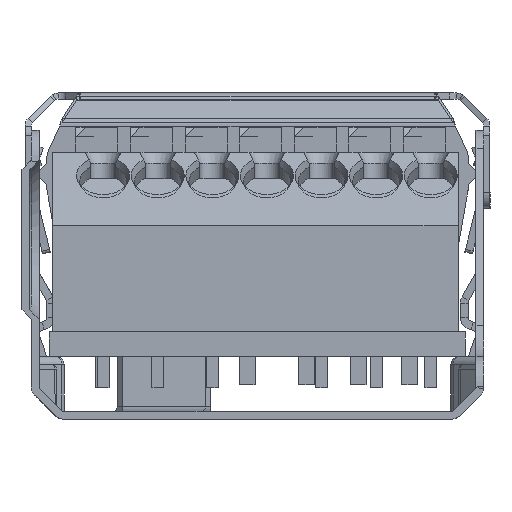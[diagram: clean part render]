
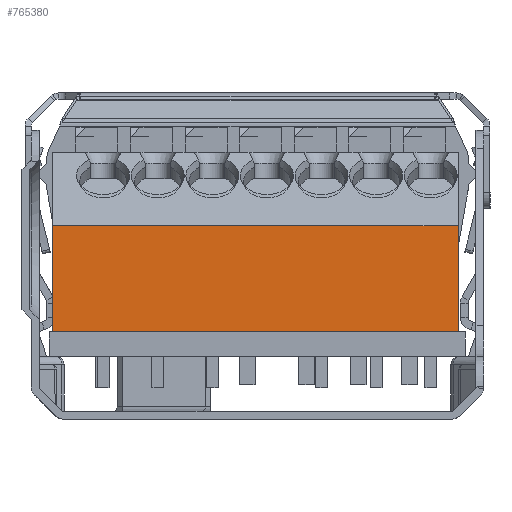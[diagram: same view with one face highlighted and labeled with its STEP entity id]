
A CAD part, left-side view. The second image highlights one B-rep face of the part: STEP entity #765380.
In plain terms, the highlighted planar face has unit normal (-1, 0, 0).
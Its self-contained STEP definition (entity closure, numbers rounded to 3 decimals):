
#686780=CARTESIAN_POINT('',(0.42,0.,0.));
#686790=DIRECTION('',(0.,1.,0.));
#686800=VECTOR('',#686790,1.);
#686810=LINE('',#686780,#686800);
#686820=CARTESIAN_POINT('',(0.42,0.45,-0.));
#686830=VERTEX_POINT('',#686820);
#686840=CARTESIAN_POINT('',(0.42,26.45,-0.));
#686850=VERTEX_POINT('',#686840);
#686860=EDGE_CURVE('',#686830,#686850,#686810,.T.);
#707400=CARTESIAN_POINT('',(0.42,0.45,6.8));
#707410=VERTEX_POINT('',#707400);
#707440=CARTESIAN_POINT('',(0.42,26.45,6.8));
#707450=DIRECTION('',(0.,-1.,0.));
#707460=VECTOR('',#707450,1.);
#707470=LINE('',#707440,#707460);
#707480=CARTESIAN_POINT('',(0.42,26.45,6.8));
#707490=VERTEX_POINT('',#707480);
#707500=EDGE_CURVE('',#707490,#707410,#707470,.T.);
#765050=CARTESIAN_POINT('',(0.42,0.45,6.8));
#765060=DIRECTION('',(0.,0.,-1.));
#765070=VECTOR('',#765060,1.);
#765080=LINE('',#765050,#765070);
#765090=EDGE_CURVE('',#707410,#686830,#765080,.T.);
#765220=CARTESIAN_POINT('',(0.42,24.95,0.3));
#765230=DIRECTION('',(1.,0.,0.));
#765240=DIRECTION('',(0.,1.,0.));
#765250=AXIS2_PLACEMENT_3D('',#765220,#765230,#765240);
#765260=PLANE('',#765250);
#765270=CARTESIAN_POINT('',(0.42,26.45,6.8));
#765280=DIRECTION('',(0.,0.,-1.));
#765290=VECTOR('',#765280,1.);
#765300=LINE('',#765270,#765290);
#765310=EDGE_CURVE('',#707490,#686850,#765300,.T.);
#765320=ORIENTED_EDGE('',*,*,#765310,.T.);
#765330=ORIENTED_EDGE('',*,*,#707500,.F.);
#765340=ORIENTED_EDGE('',*,*,#765090,.F.);
#765350=ORIENTED_EDGE('',*,*,#686860,.F.);
#765360=EDGE_LOOP('',(#765350,#765340,#765330,#765320));
#765370=FACE_OUTER_BOUND('',#765360,.T.);
#765380=ADVANCED_FACE('',(#765370),#765260,.F.);
